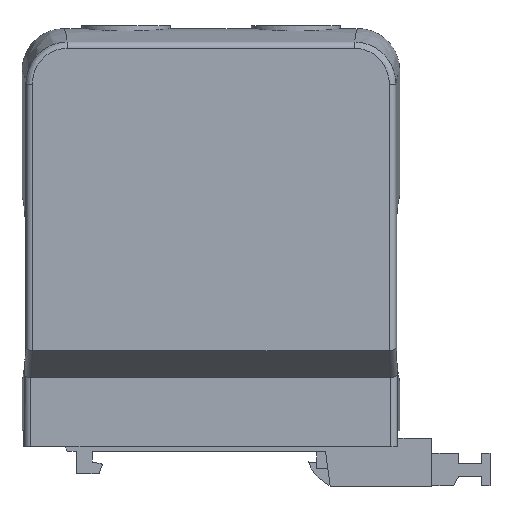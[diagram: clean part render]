
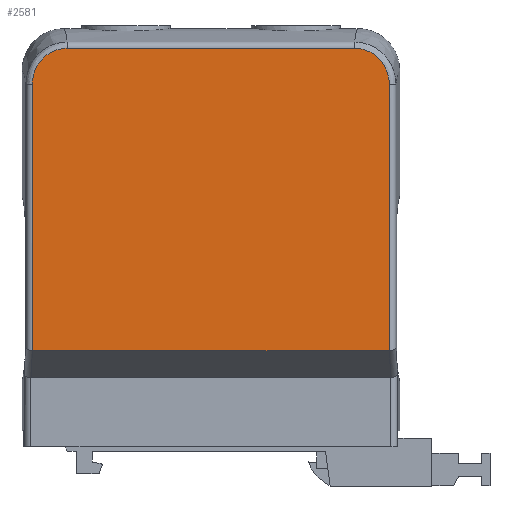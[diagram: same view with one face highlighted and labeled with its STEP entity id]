
A CAD part, front view. The second image highlights one B-rep face of the part: STEP entity #2581.
In plain terms, the highlighted planar face has unit normal (0, -1, 0).
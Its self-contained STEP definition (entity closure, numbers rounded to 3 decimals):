
#50=ELLIPSE('',#2789,1.221,1.);
#51=ELLIPSE('',#2790,1.221,1.);
#67=B_SPLINE_CURVE_WITH_KNOTS('',3,(#4169,#4170,#4171,#4172,#4173),
 .UNSPECIFIED.,.F.,.F.,(4,1,4),(0.,0.004,0.009),
 .UNSPECIFIED.);
#68=B_SPLINE_CURVE_WITH_KNOTS('',3,(#4177,#4178,#4179,#4180,#4181,#4182),
 .UNSPECIFIED.,.F.,.F.,(4,1,1,4),(0.,0.004,0.007,
0.009),.UNSPECIFIED.);
#255=LINE('',#4064,#539);
#273=LINE('',#4161,#557);
#274=LINE('',#4167,#558);
#275=LINE('',#4175,#559);
#539=VECTOR('',#3238,1000.);
#557=VECTOR('',#3272,1000.);
#558=VECTOR('',#3277,1000.);
#559=VECTOR('',#3278,1000.);
#1000=ORIENTED_EDGE('',*,*,#1655,.T.);
#1001=ORIENTED_EDGE('',*,*,#1656,.T.);
#1002=ORIENTED_EDGE('',*,*,#1628,.F.);
#1003=ORIENTED_EDGE('',*,*,#1657,.T.);
#1004=ORIENTED_EDGE('',*,*,#1658,.T.);
#1005=ORIENTED_EDGE('',*,*,#1659,.T.);
#1006=ORIENTED_EDGE('',*,*,#1660,.T.);
#1007=ORIENTED_EDGE('',*,*,#1661,.T.);
#1628=EDGE_CURVE('',#1970,#1971,#255,.T.);
#1655=EDGE_CURVE('',#1988,#1989,#273,.F.);
#1656=EDGE_CURVE('',#1989,#1971,#50,.T.);
#1657=EDGE_CURVE('',#1970,#1990,#51,.T.);
#1658=EDGE_CURVE('',#1990,#1991,#274,.T.);
#1659=EDGE_CURVE('',#1991,#1992,#67,.T.);
#1660=EDGE_CURVE('',#1992,#1993,#275,.T.);
#1661=EDGE_CURVE('',#1993,#1988,#68,.T.);
#1970=VERTEX_POINT('',#4065);
#1971=VERTEX_POINT('',#4066);
#1988=VERTEX_POINT('',#4162);
#1989=VERTEX_POINT('',#4163);
#1990=VERTEX_POINT('',#4166);
#1991=VERTEX_POINT('',#4168);
#1992=VERTEX_POINT('',#4174);
#1993=VERTEX_POINT('',#4176);
#2172=EDGE_LOOP('',(#1000,#1001,#1002,#1003,#1004,#1005,#1006,#1007));
#2332=FACE_BOUND('',#2172,.T.);
#2470=PLANE('',#2788);
#2581=ADVANCED_FACE('',(#2332),#2470,.T.);
#2788=AXIS2_PLACEMENT_3D('',#4160,#3270,#3271);
#2789=AXIS2_PLACEMENT_3D('',#4164,#3273,#3274);
#2790=AXIS2_PLACEMENT_3D('',#4165,#3275,#3276);
#3238=DIRECTION('',(-1.,0.,0.));
#3270=DIRECTION('',(0.,-1.,0.));
#3271=DIRECTION('',(0.,0.,1.));
#3272=DIRECTION('',(0.,0.,1.));
#3273=DIRECTION('',(0.,-1.,0.));
#3274=DIRECTION('',(-0.054,0.,-0.999));
#3275=DIRECTION('',(0.,-1.,0.));
#3276=DIRECTION('',(-0.054,0.,0.999));
#3277=DIRECTION('',(0.,0.,1.));
#3278=DIRECTION('',(-1.,0.,0.));
#4064=CARTESIAN_POINT('',(83.653,-17.1,-17.65));
#4065=CARTESIAN_POINT('',(27.871,-17.1,-17.65));
#4066=CARTESIAN_POINT('',(-27.871,-17.1,-17.65));
#4160=CARTESIAN_POINT('',(0.,-17.1,0.));
#4161=CARTESIAN_POINT('',(-27.887,-17.1,0.));
#4162=CARTESIAN_POINT('',(-27.887,-17.1,23.962));
#4163=CARTESIAN_POINT('',(-27.887,-17.1,-17.65));
#4164=CARTESIAN_POINT('',(-27.849,-17.1,-16.429));
#4165=CARTESIAN_POINT('',(27.849,-17.1,-16.429));
#4166=CARTESIAN_POINT('',(27.887,-17.1,-17.65));
#4167=CARTESIAN_POINT('',(27.887,-17.1,23.683));
#4168=CARTESIAN_POINT('',(27.887,-17.1,23.962));
#4169=CARTESIAN_POINT('',(27.887,-17.1,23.962));
#4170=CARTESIAN_POINT('',(27.887,-17.1,25.427));
#4171=CARTESIAN_POINT('',(26.759,-17.1,28.33));
#4172=CARTESIAN_POINT('',(23.902,-17.1,29.602));
#4173=CARTESIAN_POINT('',(22.436,-17.1,29.602));
#4174=CARTESIAN_POINT('',(22.436,-17.1,29.602));
#4175=CARTESIAN_POINT('',(0.,-17.1,29.602));
#4176=CARTESIAN_POINT('',(-22.436,-17.1,29.602));
#4177=CARTESIAN_POINT('',(-22.436,-17.1,29.602));
#4178=CARTESIAN_POINT('',(-23.903,-17.1,29.602));
#4179=CARTESIAN_POINT('',(-26.042,-17.1,28.651));
#4180=CARTESIAN_POINT('',(-27.617,-17.1,26.138));
#4181=CARTESIAN_POINT('',(-27.887,-17.1,24.695));
#4182=CARTESIAN_POINT('',(-27.887,-17.1,23.962));
